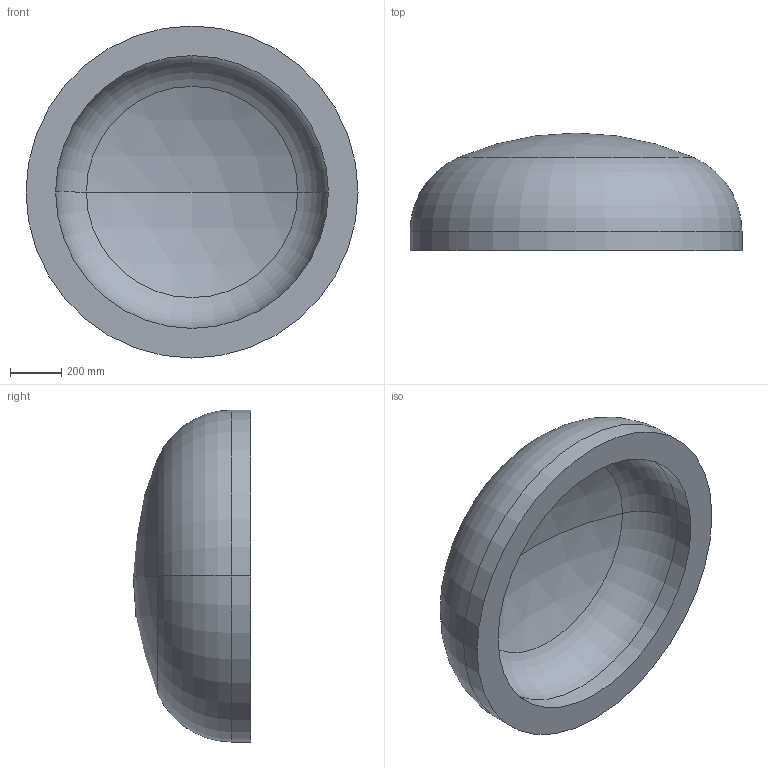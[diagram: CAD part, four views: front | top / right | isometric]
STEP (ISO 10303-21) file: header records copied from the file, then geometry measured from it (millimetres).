
FILE_DESCRIPTION (( 'STEP AP203' ), '1' );
FILE_NAME ('DIN 28013 Korbbogenform_-_Boden DIN 28013 - 1300 x 75 - I - s=116.step', '2016-07-01T10:04:18', ( '' ), ( '' ), 'SwSTEP 2.0', 'SolidWorks 2013', '' );
FILE_SCHEMA (( 'CONFIG_CONTROL_DESIGN' ));
Length unit declared in the file: millimetre
Products named in the file (1): DIN 28013 Korbbogenform_-_Boden DIN 28013 - 1300 x 75 - I - s=116
Bounding box: 1300 x 460.26 x 1300 mm (x, y, z)
Volume: 223115122 mm3; surface area: 4306472.8 mm2
Topology: 1 solids, 1 shells, 13 faces, 24 edges, 14 vertices
Faces by surface type: torus 4, cylinder 4, sphere 4, plane 1
Entity records: 407 total; most frequent: DIRECTION 72, CARTESIAN_POINT 52, ORIENTED_EDGE 48, AXIS2_PLACEMENT_3D 34, EDGE_CURVE 24, CIRCLE 20, VERTEX_POINT 14, EDGE_LOOP 14
